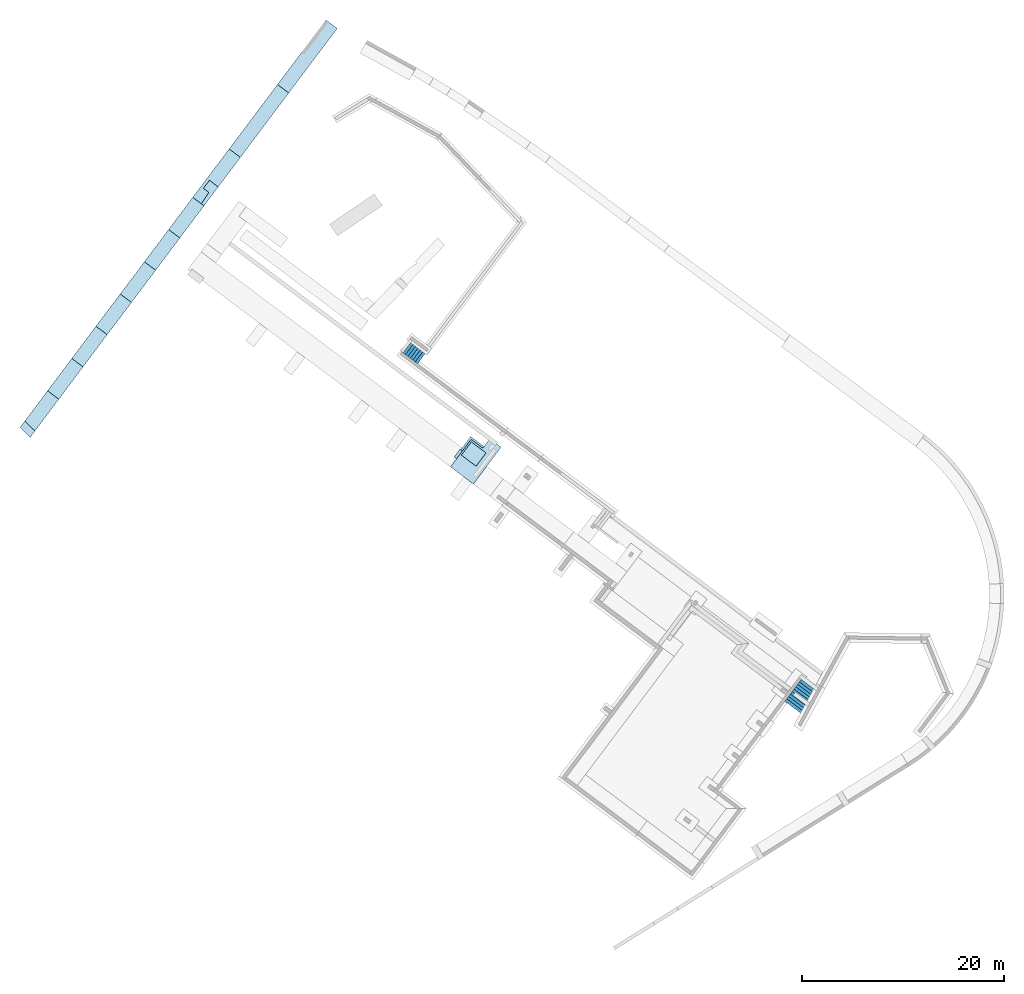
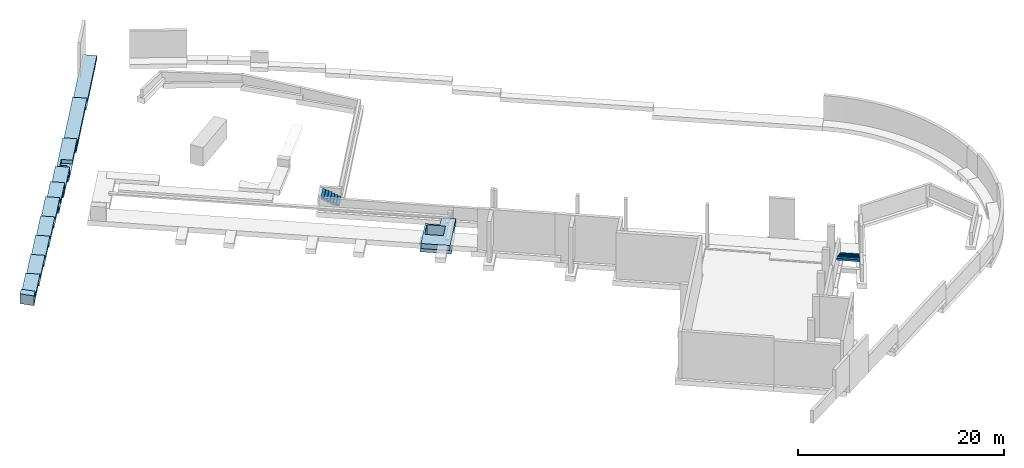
# One storey, part 7 of 9: 2 slabs, 2 stair flights, 2 elements without a shape of their own.
"""IFC2X3 building model written with IfcOpenShell, lengths in metres."""

from ifc_helpers import new_model, entity, si_unit, converted_unit, derived_unit, direction, frame, origin, place, context, subcontext, project, spatial, faceted_brep, material, type_object, element, aggregate, save


model = new_model("IFC2X3")

# Units and contexts
model_context = context("Model", 3, precision=1e-05, world=origin(), true_north=direction((6.123031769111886e-17, 1.0)))
body_context = subcontext(model_context, "Body", "Model", "MODEL_VIEW")
ifc_project = project(units=[si_unit("LENGTHUNIT", "METRE"), si_unit("AREAUNIT", "SQUARE_METRE"), si_unit("VOLUMEUNIT", "CUBIC_METRE"), converted_unit("PLANEANGLEUNIT", "DEGREE", entity("IfcRatioMeasure", 0.017453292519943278), si_unit("PLANEANGLEUNIT", "RADIAN"), dimensions=[0, 0, 0, 0, 0, 0, 0]), si_unit("MASSUNIT", "GRAM", prefix="KILO"), derived_unit("MASSDENSITYUNIT", [(si_unit("MASSUNIT", "GRAM", prefix="KILO"), 1), (si_unit("LENGTHUNIT", "METRE"), -3)]), derived_unit("IONCONCENTRATIONUNIT", [(si_unit("MASSUNIT", "GRAM", prefix="KILO"), 1), (si_unit("LENGTHUNIT", "METRE"), -3)]), derived_unit("MOMENTOFINERTIAUNIT", [(si_unit("LENGTHUNIT", "METRE"), 4)]), si_unit("TIMEUNIT", "SECOND"), si_unit("FREQUENCYUNIT", "HERTZ"), si_unit("THERMODYNAMICTEMPERATUREUNIT", "DEGREE_CELSIUS"), derived_unit("THERMALTRANSMITTANCEUNIT", [(si_unit("MASSUNIT", "GRAM", prefix="KILO"), 1), (si_unit("THERMODYNAMICTEMPERATUREUNIT", "KELVIN"), -1), (si_unit("TIMEUNIT", "SECOND"), -3)]), derived_unit("THERMALCONDUCTANCEUNIT", [(si_unit("MASSUNIT", "GRAM", prefix="KILO"), 1), (si_unit("THERMODYNAMICTEMPERATUREUNIT", "KELVIN"), -1), (si_unit("TIMEUNIT", "SECOND"), -3), (si_unit("LENGTHUNIT", "METRE"), 1)]), derived_unit("VOLUMETRICFLOWRATEUNIT", [(si_unit("LENGTHUNIT", "METRE"), 3), (si_unit("TIMEUNIT", "SECOND"), -1)]), derived_unit("MASSFLOWRATEUNIT", [(si_unit("MASSUNIT", "GRAM", prefix="KILO"), 1), (si_unit("TIMEUNIT", "SECOND"), -1)]), derived_unit("ROTATIONALFREQUENCYUNIT", [(si_unit("TIMEUNIT", "SECOND"), -1)]), si_unit("ELECTRICCURRENTUNIT", "AMPERE"), si_unit("ELECTRICVOLTAGEUNIT", "VOLT"), si_unit("POWERUNIT", "WATT"), si_unit("FORCEUNIT", "NEWTON", prefix="KILO"), si_unit("ILLUMINANCEUNIT", "LUX"), si_unit("LUMINOUSFLUXUNIT", "LUMEN"), si_unit("LUMINOUSINTENSITYUNIT", "CANDELA"), derived_unit("USERDEFINED", [(si_unit("MASSUNIT", "GRAM", prefix="KILO"), -1), (si_unit("LENGTHUNIT", "METRE"), -2), (si_unit("TIMEUNIT", "SECOND"), 3), (si_unit("LUMINOUSFLUXUNIT", "LUMEN"), 1)]), derived_unit("USERDEFINED", [(si_unit("MASSUNIT", "GRAM", prefix="KILO"), 1), (si_unit("TIMEUNIT", "SECOND"), -3), (si_unit("LENGTHUNIT", "METRE"), 3), (si_unit("ELECTRICCURRENTUNIT", "AMPERE"), -2)]), derived_unit("SOUNDPOWERUNIT", [(si_unit("MASSUNIT", "GRAM", prefix="KILO"), 1), (si_unit("TIMEUNIT", "SECOND"), -3), (si_unit("LENGTHUNIT", "METRE"), 2)]), derived_unit("SOUNDPRESSUREUNIT", [(si_unit("MASSUNIT", "GRAM", prefix="KILO"), 1), (si_unit("LENGTHUNIT", "METRE"), -1), (si_unit("TIMEUNIT", "SECOND"), -2)]), derived_unit("LINEARVELOCITYUNIT", [(si_unit("LENGTHUNIT", "METRE"), 1), (si_unit("TIMEUNIT", "SECOND"), -1)]), si_unit("PRESSUREUNIT", "PASCAL"), derived_unit("USERDEFINED", [(si_unit("MASSUNIT", "GRAM", prefix="KILO"), 1), (si_unit("LENGTHUNIT", "METRE"), -2), (si_unit("TIMEUNIT", "SECOND"), -2)]), derived_unit("LINEARFORCEUNIT", [(si_unit("MASSUNIT", "GRAM", prefix="KILO"), 1), (si_unit("TIMEUNIT", "SECOND"), -2)]), derived_unit("PLANARFORCEUNIT", [(si_unit("MASSUNIT", "GRAM", prefix="KILO"), 1), (si_unit("LENGTHUNIT", "METRE"), -1), (si_unit("TIMEUNIT", "SECOND"), -2)]), derived_unit("SPECIFICHEATCAPACITYUNIT", [(si_unit("THERMODYNAMICTEMPERATUREUNIT", "KELVIN"), -1), (si_unit("LENGTHUNIT", "METRE"), 2), (si_unit("TIMEUNIT", "SECOND"), -2)]), derived_unit("HEATINGVALUEUNIT", [(si_unit("LENGTHUNIT", "METRE"), 2), (si_unit("TIMEUNIT", "SECOND"), -2)]), derived_unit("VAPORPERMEABILITYUNIT", [(si_unit("LENGTHUNIT", "METRE"), -1), (si_unit("TIMEUNIT", "SECOND"), 1)]), derived_unit("DYNAMICVISCOSITYUNIT", [(si_unit("MASSUNIT", "GRAM", prefix="KILO"), 1), (si_unit("TIMEUNIT", "SECOND"), -1), (si_unit("LENGTHUNIT", "METRE"), -1)]), derived_unit("THERMALEXPANSIONCOEFFICIENTUNIT", [(si_unit("THERMODYNAMICTEMPERATUREUNIT", "KELVIN"), -1)]), derived_unit("MODULUSOFELASTICITYUNIT", [(si_unit("MASSUNIT", "GRAM", prefix="KILO"), 1), (si_unit("LENGTHUNIT", "METRE"), -1), (si_unit("TIMEUNIT", "SECOND"), -2)]), derived_unit("ISOTHERMALMOISTURECAPACITYUNIT", [(si_unit("LENGTHUNIT", "METRE"), 3), (si_unit("MASSUNIT", "GRAM", prefix="KILO"), -1)]), derived_unit("MOISTUREDIFFUSIVITYUNIT", [(si_unit("TIMEUNIT", "SECOND"), -1), (si_unit("LENGTHUNIT", "METRE"), 2)])], contexts=[model_context])

# Site, building, storey
site_placement = place(None, origin())
site = spatial("IfcSite", under=ifc_project, at=site_placement, Name="Default", CompositionType="ELEMENT")
building_placement = place(site_placement, frame((0.0, 0.0, 235.0), z_axis=(0.0, 0.0, 1.0), x_axis=(-0.7996477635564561, 0.6004693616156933, 0.0)))
building = spatial("IfcBuilding", under=site, at=building_placement, CompositionType="ELEMENT")
storey_placement = place(building_placement, frame((0.0, 0.0, -5.4499999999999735)))
storey = spatial("IfcBuildingStorey", under=building, at=storey_placement, Name="PS1- Gimnàs", CompositionType="ELEMENT", Elevation=-5.4499999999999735)

# Slabs
ifc_material_1 = material(Name="_Formigó Pobre- T1- STR")
slab_type_1 = type_object("IfcSlabType", Name="STR- S- Formigó- Fosat ascensor:STR- S- Formigó- Fosat ascensor", PredefinedType="BASESLAB", material=ifc_material_1)
slab_1_placement = place(storey_placement, frame((40.49514768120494, -40.68519175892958, -1.1500000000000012)))
element("IfcSlab", 1, at=slab_1_placement, inside=storey, type_object=slab_type_1, Name="STR- S- Formigó- Fosat ascensor:STR- S- Formigó- Fosat ascensor", ObjectType="STR- S- Formigó- Fosat ascensor:STR- S- Formigó- Fosat ascensor", PredefinedType="BASESLAB", context=body_context, shape_type="Brep", body=[
    faceted_brep([(0.0, 0.0, 1.0999999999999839), (1.4000000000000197, 0.0, 1.0999999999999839), (1.4000000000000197, 0.960000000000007, 1.0999999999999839), (0.0, 0.960000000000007, 1.0999999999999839), (0.0, 0.0, 1.0), (0.0, 0.960000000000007, 1.0), (1.4000000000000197, 0.960000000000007, 1.0), (1.4000000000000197, 0.0, 1.0)], [[[0, 1, 2, 3]], [[4, 5, 6, 7]], [[1, 0, 4, 7]], [[2, 1, 7, 6]], [[3, 2, 6, 5]], [[0, 3, 5, 4]]]),
    faceted_brep([(3.05, 0.9599999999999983, 0.09999999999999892), (3.05, 3.5735008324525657, 0.09999999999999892), (0.0, 3.5735008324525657, 0.09999999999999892), (0.0, 0.9600000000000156, 0.09999999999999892), (3.05, 0.9599999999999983, 0.0), (0.0, 0.9600000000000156, 0.0), (0.0, 3.5735008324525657, 0.0), (3.05, 3.5735008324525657, 0.0)], [[[0, 1, 2, 3]], [[4, 5, 6, 7]], [[1, 0, 4, 7]], [[3, 2, 6, 5]], [[0, 3, 5, 4]], [[2, 1, 7, 6]]]),
    faceted_brep([(3.05, 3.3599999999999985, 0.4999999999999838), (3.05, 3.5200000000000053, 1.0999999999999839), (3.05, 3.3599999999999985, 1.0999999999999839), (0.0, 3.360000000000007, 0.4999999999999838), (0.0, 3.360000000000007, 1.0999999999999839), (0.0, 3.5200000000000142, 1.0999999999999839)], [[[0, 1, 2]], [[3, 4, 5]], [[0, 2, 4, 3]], [[2, 1, 5, 4]], [[1, 0, 3, 5]]]),
    faceted_brep([(1.4000000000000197, 1.1599999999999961, 1.699999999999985), (2.8500000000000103, 1.1599999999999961, 1.699999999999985), (2.8500000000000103, 4.570000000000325, 1.699999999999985), (1.2000000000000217, 4.57000000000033, 1.699999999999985), (0.20000000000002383, 4.570000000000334, 1.699999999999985), (0.0, 4.570000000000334, 1.699999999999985), (0.0, 2.37000000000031, 1.699999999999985), (0.0, 0.0, 1.699999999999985), (0.5000000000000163, 0.0, 1.699999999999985), (0.900000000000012, 0.0, 1.699999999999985), (1.4000000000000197, 0.0, 1.699999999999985), (2.675000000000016, 2.9920018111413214, 1.699999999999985), (2.675000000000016, 1.352001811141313, 1.699999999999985), (0.8500000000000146, 1.352001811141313, 1.699999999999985), (0.8500000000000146, 2.9920018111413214, 1.699999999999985), (2.8500000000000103, 1.1599999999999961, 0.49999999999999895), (2.8500000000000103, 2.5835008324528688, 0.49999999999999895), (2.8500000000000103, 2.5835008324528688, 1.099999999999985), (2.8500000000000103, 3.5735008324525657, 1.0999999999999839), (2.8500000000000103, 4.570000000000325, 1.0999999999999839), (0.0, 0.0, 1.0999999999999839), (0.0, 4.570000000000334, 1.0999999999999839), (0.0, 3.5735008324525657, 1.0999999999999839), (0.0, 3.5735008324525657, 0.09999999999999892), (0.0, 0.9600000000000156, 0.09999999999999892), (0.0, 0.9600000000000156, 1.0999999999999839), (1.4000000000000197, 1.1599999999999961, 0.49999999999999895), (2.675000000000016, 2.9920018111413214, 0.49999999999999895), (2.675000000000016, 1.352001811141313, 0.49999999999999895), (0.8500000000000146, 1.352001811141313, 0.49999999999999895), (0.8500000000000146, 2.9920018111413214, 0.49999999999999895), (1.4000000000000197, 0.960000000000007, 0.49999999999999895), (3.05, 0.9599999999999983, 0.49999999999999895), (3.05, 2.5835008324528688, 0.49999999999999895), (3.05, 0.9599999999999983, 0.09999999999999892), (3.05, 3.5735008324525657, 0.09999999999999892), (3.05, 3.5735008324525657, 0.49999999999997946), (1.4000000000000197, 0.0, 1.0999999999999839), (1.4000000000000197, 0.960000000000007, 1.0999999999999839), (3.129999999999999, 2.5835008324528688, 1.0999999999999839), (3.129999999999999, 3.5735008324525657, 1.0999999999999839), (0.20000000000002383, 4.570000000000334, 1.0999999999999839), (1.2000000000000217, 4.57000000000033, 1.0999999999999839)], [[[0, 1, 2, 3, 4, 5, 6, 7, 8, 9, 10], [11, 12, 13, 14]], [[2, 1, 15, 16, 17, 18, 19]], [[20, 7, 6, 5, 21, 22, 23, 24, 25]], [[1, 0, 26, 15]], [[12, 11, 27, 28]], [[13, 12, 28, 29]], [[14, 13, 29, 30]], [[11, 14, 30, 27]], [[31, 32, 33, 16, 15, 26]], [[34, 24, 23, 35]], [[34, 35, 36, 33, 32]], [[37, 20, 25, 38]], [[10, 9, 8, 7, 20, 37]], [[33, 39, 17, 16]], [[18, 17, 39, 40]], [[35, 23, 22, 18, 40, 36]], [[21, 41, 42, 19, 18, 22]], [[5, 4, 3, 2, 19, 42, 41, 21]], [[31, 38, 25, 24, 34, 32]], [[10, 37, 38, 31, 26, 0]], [[39, 33, 36, 40]], [[28, 27, 30, 29]]]),
])
ifc_material_2 = material(Name="_Formigó- T1- STR")
slab_type_2 = type_object("IfcSlabType", Name="STR- S- Formigó- Mp2:STR- S- Formigó- Mp4", PredefinedType="BASESLAB", material=ifc_material_2)
slab_2_placement = place(storey_placement, frame((78.4449378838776, -64.14728884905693, -0.10000000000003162)))
element("IfcSlab", 2, at=slab_2_placement, inside=storey, type_object=slab_type_2, Name="STR- S- Formigó- Mp2:STR- S- Formigó- Mp4", ObjectType="STR- S- Formigó- Mp2:STR- S- Formigó- Mp4", PredefinedType="BASESLAB", context=body_context, shape_type="Brep", body=[
    faceted_brep([(0.0, 42.0, 6.0), (1.400000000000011, 42.0, 6.0), (1.4000000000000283, 46.0, 6.0), (0.0, 46.0, 6.0), (0.0, 42.0, 5.550000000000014), (1.4000000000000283, 42.0, 5.549999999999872), (0.0, 46.0, 6.550000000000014), (1.4000000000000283, 46.0, 6.550000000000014), (1.4000000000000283, 49.74601683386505, 6.550000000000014), (0.0, 49.94264694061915, 6.550000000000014), (0.0, 50.75049889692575, 6.100000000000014), (1.4000000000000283, 50.55386879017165, 6.100000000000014), (1.4000000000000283, 46.59999999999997, 6.100000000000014), (0.0, 46.59999999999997, 6.100000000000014), (0.0, 50.75049889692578, 7.270000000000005), (1.4000000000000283, 50.55386879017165, 7.270000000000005), (0.0, 49.94264694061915, 7.270000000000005), (0.0, 46.59999999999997, 5.550000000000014), (1.4000000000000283, 49.74601683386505, 7.270000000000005), (1.4000000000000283, 46.59999999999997, 5.550000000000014)], [[[0, 1, 2, 3]], [[1, 0, 4, 5]], [[6, 7, 8, 9]], [[10, 11, 12, 13]], [[11, 10, 14, 15]], [[4, 0, 3, 6, 9, 16, 14, 10, 13, 17]], [[7, 6, 3, 2]], [[12, 11, 15, 18, 8, 7, 2, 1, 5, 19]], [[19, 5, 4, 17]], [[12, 19, 17, 13]], [[15, 14, 16, 18]], [[18, 16, 9, 8]]]),
    faceted_brep([(1.400000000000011, 42.59999999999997, 5.550000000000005), (0.0, 42.59999999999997, 5.550000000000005), (0.0, 42.0, 5.550000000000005), (1.400000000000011, 42.0, 5.550000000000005), (1.400000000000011, 42.59999999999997, 5.499999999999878), (1.400000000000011, 42.0, 5.499999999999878), (0.0, 42.0, 5.499999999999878), (0.0, 42.59999999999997, 5.499999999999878)], [[[0, 1, 2, 3]], [[4, 5, 6, 7]], [[1, 0, 4, 7]], [[2, 1, 7, 6]], [[3, 2, 6, 5]], [[0, 3, 5, 4]]]),
    faceted_brep([(1.400000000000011, 38.59999999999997, 5.049999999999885), (0.0, 38.59999999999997, 5.049999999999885), (0.0, 38.0, 5.049999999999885), (1.400000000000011, 38.0, 5.049999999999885), (1.400000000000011, 38.59999999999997, 5.0), (1.400000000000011, 38.0, 5.0), (0.0, 38.0, 5.0), (0.0, 38.59999999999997, 5.0)], [[[0, 1, 2, 3]], [[4, 5, 6, 7]], [[1, 0, 4, 7]], [[2, 1, 7, 6]], [[3, 2, 6, 5]], [[0, 3, 5, 4]]]),
    faceted_brep([(1.400000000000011, 42.59999999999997, 5.4999999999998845), (0.0, 42.59999999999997, 5.4999999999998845), (0.0, 38.0, 5.4999999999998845), (1.400000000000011, 38.0, 5.4999999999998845), (1.400000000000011, 42.59999999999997, 5.049999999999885), (1.400000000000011, 38.0, 5.049999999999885), (0.0, 38.0, 5.049999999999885), (0.0, 42.59999999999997, 5.049999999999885)], [[[0, 1, 2, 3]], [[4, 5, 6, 7]], [[1, 0, 4, 7]], [[2, 1, 7, 6]], [[3, 2, 6, 5]], [[0, 3, 5, 4]]]),
    faceted_brep([(1.400000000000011, 34.59999999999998, 4.549999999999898), (0.0, 34.59999999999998, 4.549999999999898), (0.0, 34.0, 4.549999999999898), (1.400000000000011, 34.0, 4.549999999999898), (1.400000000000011, 34.59999999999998, 4.499999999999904), (1.400000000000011, 34.0, 4.499999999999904), (0.0, 34.0, 4.499999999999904), (0.0, 34.59999999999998, 4.499999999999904)], [[[0, 1, 2, 3]], [[4, 5, 6, 7]], [[1, 0, 4, 7]], [[2, 1, 7, 6]], [[3, 2, 6, 5]], [[0, 3, 5, 4]]]),
    faceted_brep([(1.400000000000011, 38.59999999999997, 5.0), (0.0, 38.59999999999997, 5.0), (0.0, 34.0, 5.0), (1.400000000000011, 34.0, 5.0), (1.400000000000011, 38.59999999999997, 4.549999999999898), (1.400000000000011, 34.0, 4.549999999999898), (0.0, 34.0, 4.549999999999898), (0.0, 38.59999999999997, 4.549999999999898)], [[[0, 1, 2, 3]], [[4, 5, 6, 7]], [[1, 0, 4, 7]], [[2, 1, 7, 6]], [[3, 2, 6, 5]], [[0, 3, 5, 4]]]),
    faceted_brep([(1.400000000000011, 30.59999999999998, 4.0499999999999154), (0.0, 30.59999999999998, 4.0499999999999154), (0.0, 30.0, 4.0499999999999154), (1.400000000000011, 30.0, 4.0499999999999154), (1.400000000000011, 30.59999999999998, 3.499999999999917), (1.400000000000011, 30.0, 3.499999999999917), (0.0, 30.0, 3.499999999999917), (0.0, 30.59999999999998, 3.499999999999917)], [[[0, 1, 2, 3]], [[4, 5, 6, 7]], [[1, 0, 4, 7]], [[2, 1, 7, 6]], [[3, 2, 6, 5]], [[0, 3, 5, 4]]]),
    faceted_brep([(1.400000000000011, 34.59999999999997, 4.49999999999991), (0.0, 34.59999999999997, 4.49999999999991), (0.0, 30.0, 4.49999999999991), (1.400000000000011, 30.0, 4.49999999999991), (1.400000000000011, 34.59999999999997, 4.04999999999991), (1.400000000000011, 30.0, 4.04999999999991), (0.0, 30.0, 4.04999999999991), (0.0, 34.59999999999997, 4.04999999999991)], [[[0, 1, 2, 3]], [[4, 5, 6, 7]], [[1, 0, 4, 7]], [[2, 1, 7, 6]], [[3, 2, 6, 5]], [[0, 3, 5, 4]]]),
    faceted_brep([(1.400000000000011, 26.599999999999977, 3.049999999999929), (0.0, 26.599999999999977, 3.049999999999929), (0.0, 26.0, 3.049999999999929), (1.400000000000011, 26.0, 3.049999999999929), (1.400000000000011, 26.599999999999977, 2.550000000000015), (1.400000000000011, 26.0, 2.550000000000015), (0.0, 26.0, 2.550000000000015), (0.0, 26.599999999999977, 2.550000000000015)], [[[0, 1, 2, 3]], [[4, 5, 6, 7]], [[1, 0, 4, 7]], [[2, 1, 7, 6]], [[3, 2, 6, 5]], [[0, 3, 5, 4]]]),
    faceted_brep([(0.0, 0.0, 0.5000000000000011), (1.3999999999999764, 0.0, 0.5000000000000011), (1.3999999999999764, 8.0, 0.5000000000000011), (0.0, 8.0, 0.5000000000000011), (1.3999999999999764, 8.599999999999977, 0.0), (1.3999999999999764, 0.0, 0.0), (0.0, 0.0, 0.0), (0.0, 8.599999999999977, 0.0), (0.0, 8.599999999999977, 0.15000000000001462), (0.0, 8.599999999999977, 0.25000000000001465), (0.0, 8.599999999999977, 0.49999999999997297), (1.3999999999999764, 8.599999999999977, 0.5000000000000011), (1.3999999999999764, 8.599999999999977, 0.25000000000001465), (1.3999999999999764, 8.599999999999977, 0.15000000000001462), (0.0, 8.0, 1.0), (0.0, 16.599999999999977, 1.0), (0.0, 16.599999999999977, 0.49999999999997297), (1.3999999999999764, 16.599999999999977, 0.49999999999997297), (1.3999999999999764, 16.599999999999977, 1.0), (1.3999999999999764, 8.0, 1.0)], [[[0, 1, 2, 3]], [[4, 5, 6, 7]], [[4, 7, 8, 9, 10, 11, 12, 13]], [[7, 6, 0, 3, 14, 15, 16, 10, 9, 8]], [[1, 0, 6, 5]], [[5, 4, 13, 12, 11, 17, 18, 19, 2, 1]], [[18, 15, 14, 19]], [[16, 17, 11, 10]], [[15, 18, 17, 16]], [[19, 14, 3, 2]]]),
    faceted_brep([(0.0, 16.0, 1.749999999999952), (1.3999999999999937, 16.0, 1.749999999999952), (1.400000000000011, 22.0, 1.749999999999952), (0.33214092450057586, 22.0, 1.749999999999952), (0.4205999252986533, 20.65676671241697, 1.749999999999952), (1.0999836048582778, 20.65676671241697, 1.749999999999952), (1.0999835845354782, 19.656766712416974, 1.749999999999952), (0.0, 19.656766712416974, 1.749999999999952), (1.3999999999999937, 22.599999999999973, 1.2499999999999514), (1.3999999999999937, 16.0, 1.2499999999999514), (0.0, 16.0, 1.2499999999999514), (0.0, 22.599999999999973, 1.2499999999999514), (0.0, 22.0, 2.5500000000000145), (1.400000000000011, 22.0, 2.5500000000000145), (1.400000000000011, 22.59999999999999, 2.5500000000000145), (1.400000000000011, 26.599999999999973, 2.5500000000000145), (0.0, 26.599999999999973, 2.5500000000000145), (0.0, 22.59999999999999, 2.5500000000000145), (0.0, 22.0, 2.0999999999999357), (0.0, 22.0, 1.7500000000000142), (1.400000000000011, 22.0, 2.0999999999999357), (0.0, 26.599999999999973, 2.250000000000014), (0.0, 24.03627106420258, 2.250000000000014), (0.0, 24.03627106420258, 2.1000000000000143), (0.0, 22.599999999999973, 2.1000000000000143), (0.0, 22.599999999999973, 1.7500000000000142), (0.0, 22.599999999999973, 1.3000000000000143), (0.2926277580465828, 22.599999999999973, 1.3000000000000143), (0.2926277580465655, 22.599999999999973, 1.7500000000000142), (1.400000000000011, 22.599999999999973, 2.1000000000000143), (1.3999999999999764, 26.599999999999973, 2.1000000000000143), (1.0999836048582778, 20.65676671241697, 1.3000000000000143), (0.420599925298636, 20.65676671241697, 1.3000000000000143), (0.0, 19.656766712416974, 1.3000000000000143), (1.0999835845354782, 19.656766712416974, 1.3000000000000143), (0.029206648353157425, 26.599999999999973, 2.250000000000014), (0.19718654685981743, 24.04925683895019, 2.250000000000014), (0.1971865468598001, 24.04925683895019, 2.1000000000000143), (0.029206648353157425, 26.599999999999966, 2.1000000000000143)], [[[0, 1, 2, 3, 4, 5, 6, 7]], [[8, 9, 10, 11]], [[1, 0, 10, 9]], [[12, 13, 14, 15, 16, 17]], [[13, 12, 18, 19, 3, 2, 20]], [[17, 16, 21, 22, 23, 24, 25, 19, 18, 12]], [[8, 11, 26, 27, 28, 25, 24, 29]], [[9, 8, 29, 30, 15, 14, 13, 20, 2, 1]], [[28, 3, 19, 25]], [[31, 32, 27, 26, 33, 34]], [[6, 34, 33, 7]], [[31, 34, 6, 5]], [[32, 31, 5, 4]], [[35, 36, 22, 21]], [[22, 36, 37, 23]], [[36, 35, 38, 37]], [[29, 24, 23, 37, 38, 30]], [[16, 15, 30, 38, 35, 21]], [[11, 10, 0, 7, 33, 26]], [[32, 4, 3, 28, 27]]]),
    faceted_brep([(1.400000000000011, 30.599999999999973, 3.499999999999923), (0.0, 30.599999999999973, 3.499999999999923), (0.0, 26.0, 3.499999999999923), (1.400000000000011, 26.0, 3.499999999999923), (1.400000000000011, 30.599999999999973, 3.049999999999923), (1.400000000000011, 26.0, 3.049999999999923), (0.0, 26.0, 3.049999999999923), (0.0, 30.599999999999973, 3.049999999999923)], [[[0, 1, 2, 3]], [[4, 5, 6, 7]], [[1, 0, 4, 7]], [[2, 1, 7, 6]], [[3, 2, 6, 5]], [[0, 3, 5, 4]]]),
])

# Stair, stair flight
stair_1_placement = place(storey_placement, origin())
stair_1 = element("IfcStair", 3, at=stair_1_placement, inside=storey, Name="Escalera moldeada in situ:Escalera", ObjectType="Escalera moldeada in situ:E-X1- Exterior", ShapeType="STRAIGHT_RUN_STAIR")
stair_flight_type_1 = type_object("IfcStairFlightType", Name="Tramo monolítico:E00- STR- Ext", PredefinedType="STRAIGHT")
stair_flight_1_placement = place(stair_1_placement, frame((52.095147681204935, -43.84019175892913, 0.0)))
stair_flight_1 = element("IfcStairFlight", 4, at=stair_flight_1_placement, type_object=stair_flight_type_1, material=ifc_material_2, Name="Escalera moldeada in situ:Escalera:41333 Run 1", ObjectType="Tramo monolítico:E00- STR- Ext", NumberOfRiser=7, NumberOfTreads=6, RiserHeight=0.4686914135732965, TreadLength=0.9842519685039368, context=body_context, shape_type="Brep", body=[
    faceted_brep([(0.30000000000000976, 1.4999999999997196, 0.0828571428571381), (0.0, 1.4999999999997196, 0.0828571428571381), (0.0, 0.0, 0.0828571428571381), (0.30000000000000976, 0.0, 0.0828571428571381), (0.30000000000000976, 1.4999999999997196, -0.06000000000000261), (0.0, 1.4999999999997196, -0.06000000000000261), (0.0, 0.0, -0.06000000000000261), (0.30000000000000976, 0.0, -0.06000000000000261), (0.6000000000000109, 1.4999999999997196, 0.2257142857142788), (0.30000000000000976, 1.4999999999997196, 0.2257142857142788), (0.30000000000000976, 0.0, 0.2257142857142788), (0.6000000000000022, 0.0, 0.2257142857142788), (0.6000000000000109, 1.4999999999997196, 0.004196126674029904), (0.46518813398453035, 1.4999999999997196, -0.06000000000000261), (0.465188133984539, 0.0, -0.06000000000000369), (0.6000000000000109, 0.0, 0.004196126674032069), (0.9000000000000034, 1.4999999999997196, 0.1470532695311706), (1.200000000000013, 1.4999999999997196, 0.28991041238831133), (1.5000000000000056, 1.4999999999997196, 0.432767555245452), (1.8000000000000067, 1.4999999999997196, 0.5756246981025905), (1.8000000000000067, 0.0, 0.5756246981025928), (1.5000000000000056, 0.0, 0.432767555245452), (1.200000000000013, 0.0, 0.28991041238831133), (0.9000000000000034, 0.0, 0.1470532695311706), (0.9000000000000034, 1.4999999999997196, 0.3685714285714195), (0.6000000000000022, 1.4999999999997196, 0.3685714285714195), (0.6000000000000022, 0.0, 0.3685714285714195), (0.9000000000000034, 0.0, 0.3685714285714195), (1.2000000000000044, 1.4999999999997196, 0.5114285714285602), (0.9000000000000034, 1.4999999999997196, 0.5114285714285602), (0.9000000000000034, 0.0, 0.5114285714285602), (1.2000000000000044, 0.0, 0.5114285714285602), (1.5000000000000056, 1.4999999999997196, 0.6542857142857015), (1.2000000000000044, 1.4999999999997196, 0.6542857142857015), (1.2000000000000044, 0.0, 0.6542857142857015), (1.5000000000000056, 0.0, 0.6542857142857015), (1.8000000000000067, 1.4999999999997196, 0.7971428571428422), (1.5000000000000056, 1.4999999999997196, 0.7971428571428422), (1.5000000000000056, 0.0, 0.7971428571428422), (1.8000000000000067, 0.0, 0.7971428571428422)], [[[0, 1, 2, 3]], [[1, 0, 4, 5]], [[2, 1, 5, 6]], [[3, 2, 6, 7]], [[8, 9, 10, 11]], [[4, 0, 9, 8, 12, 13]], [[0, 3, 10, 9]], [[3, 7, 14, 15, 11, 10]], [[5, 4, 13, 14, 7, 6]], [[14, 13, 12, 16, 17, 18, 19, 20, 21, 22, 23, 15]], [[24, 25, 26, 27]], [[25, 24, 16, 12, 8]], [[8, 11, 26, 25]], [[27, 26, 11, 15, 23]], [[28, 29, 30, 31]], [[29, 28, 17, 16, 24]], [[24, 27, 30, 29]], [[31, 30, 27, 23, 22]], [[32, 33, 34, 35]], [[33, 32, 18, 17, 28]], [[28, 31, 34, 33]], [[35, 34, 31, 22, 21]], [[36, 37, 38, 39]], [[37, 36, 19, 18, 32]], [[32, 35, 38, 37]], [[39, 38, 35, 21, 20]], [[36, 39, 20, 19]]]),
])
aggregate(stair_1, [stair_flight_1])

stair_2_placement = place(storey_placement, origin())
stair_2 = element("IfcStair", 5, at=stair_2_placement, inside=storey, Name="Escalera moldeada in situ:Escalera", ObjectType="Escalera moldeada in situ:E-X1- Exterior", ShapeType="STRAIGHT_RUN_STAIR")
stair_flight_type_2 = type_object("IfcStairFlightType", Name="Tramo monolítico:E00- STR- Ext", PredefinedType="NOTDEFINED")
stair_flight_2_placement = place(stair_2_placement, frame((0.5517266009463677, -40.140191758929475, 0.0)))
stair_flight_2 = element("IfcStairFlight", 6, at=stair_flight_2_placement, type_object=stair_flight_type_2, material=ifc_material_2, Name="Escalera moldeada in situ:Escalera:41677 Run 1", ObjectType="Tramo monolítico:E00- STR- Ext", NumberOfRiser=9, NumberOfTreads=9, RiserHeight=0.4775444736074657, TreadLength=0.9895247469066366, context=body_context, shape_type="Brep", body=[
    faceted_brep([(0.3507718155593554, 0.30000000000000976, 0.11555555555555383), (0.39461829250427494, 0.0, 0.11555555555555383), (2.2934210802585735, 0.0, 0.11555555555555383), (2.293421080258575, 0.3000000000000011, 0.11555555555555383), (0.3507718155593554, 0.30000000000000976, -0.030000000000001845), (0.39461829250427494, 0.0, -0.030000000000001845), (2.2934210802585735, 0.0, -0.030000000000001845), (2.293421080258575, 0.3000000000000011, -0.030000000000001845), (0.306925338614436, 0.6000000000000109, 0.2611111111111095), (0.35077181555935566, 0.30000000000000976, 0.2611111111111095), (2.293421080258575, 0.3000000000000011, 0.2611111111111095), (2.2934210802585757, 0.6000000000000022, 0.2611111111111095), (0.3069253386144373, 0.6000000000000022, 0.03881359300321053), (0.32765442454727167, 0.45817045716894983, -0.030000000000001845), (2.2934210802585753, 0.4581704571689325, -0.03000000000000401), (2.2934210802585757, 0.6000000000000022, 0.03881359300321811), (0.2630788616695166, 0.900000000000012, 0.4066666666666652), (0.30692533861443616, 0.6000000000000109, 0.4066666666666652), (2.2934210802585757, 0.6000000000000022, 0.4066666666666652), (2.293421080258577, 0.9000000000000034, 0.4066666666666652), (0.2630788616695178, 0.9000000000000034, 0.1843691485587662), (2.293421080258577, 0.9000000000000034, 0.1843691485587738), (0.21923238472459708, 1.200000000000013, 0.5522222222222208), (0.2630788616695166, 0.900000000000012, 0.5522222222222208), (2.293421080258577, 0.9000000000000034, 0.5522222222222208), (2.293421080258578, 1.2000000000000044, 0.5522222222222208), (0.21923238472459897, 1.2000000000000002, 0.32992470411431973), (2.293421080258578, 1.2000000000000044, 0.32992470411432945), (0.1753859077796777, 1.5000000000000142, 0.6977777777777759), (0.21923238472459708, 1.200000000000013, 0.6977777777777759), (2.293421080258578, 1.2000000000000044, 0.6977777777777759), (2.2934210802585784, 1.5000000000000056, 0.6977777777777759), (0.1753859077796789, 1.5000000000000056, 0.47548025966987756), (2.293421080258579, 1.5000000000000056, 0.4754802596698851), (0.1315394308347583, 1.8000000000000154, 0.8433333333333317), (0.17538590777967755, 1.5000000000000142, 0.8433333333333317), (2.293421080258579, 1.5000000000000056, 0.8433333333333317), (2.293421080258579, 1.8000000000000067, 0.8433333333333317), (0.13153943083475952, 1.8000000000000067, 0.6210358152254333), (2.29342108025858, 1.8000000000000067, 0.6210358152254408), (0.08769295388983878, 2.1000000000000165, 0.9888888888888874), (0.1315394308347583, 1.8000000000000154, 0.9888888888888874), (2.29342108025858, 1.8000000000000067, 0.9888888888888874), (2.293421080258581, 2.1000000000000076, 0.9888888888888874), (0.08769295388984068, 2.100000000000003, 0.7665913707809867), (2.293421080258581, 2.1000000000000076, 0.7665913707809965), (0.04384647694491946, 2.4000000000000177, 1.134444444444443), (0.08769295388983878, 2.1000000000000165, 1.134444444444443), (2.293421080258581, 2.1000000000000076, 1.134444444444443), (2.2934210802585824, 2.400000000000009, 1.134444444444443), (0.04384647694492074, 2.400000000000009, 0.9121469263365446), (2.2934210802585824, 2.400000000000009, 0.9121469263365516), (0.0, 2.700000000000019, 1.0577024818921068), (2.2934210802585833, 2.7000000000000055, 1.0577024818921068), (0.0, 2.700000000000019, 1.2799999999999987), (0.043846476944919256, 2.4000000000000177, 1.2799999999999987), (2.2934210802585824, 2.400000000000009, 1.2799999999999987), (2.2934210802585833, 2.70000000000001, 1.2799999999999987)], [[[0, 1, 2, 3]], [[1, 0, 4, 5]], [[2, 1, 5, 6]], [[3, 2, 6, 7]], [[8, 9, 10, 11]], [[4, 0, 9, 8, 12, 13]], [[0, 3, 10, 9]], [[3, 7, 14, 15, 11, 10]], [[16, 17, 18, 19]], [[17, 16, 20, 12, 8]], [[8, 11, 18, 17]], [[19, 18, 11, 15, 21]], [[22, 23, 24, 25]], [[23, 22, 26, 20, 16]], [[16, 19, 24, 23]], [[25, 24, 19, 21, 27]], [[28, 29, 30, 31]], [[29, 28, 32, 26, 22]], [[22, 25, 30, 29]], [[31, 30, 25, 27, 33]], [[34, 35, 36, 37]], [[35, 34, 38, 32, 28]], [[28, 31, 36, 35]], [[37, 36, 31, 33, 39]], [[40, 41, 42, 43]], [[41, 40, 44, 38, 34]], [[34, 37, 42, 41]], [[43, 42, 37, 39, 45]], [[46, 47, 48, 49]], [[47, 46, 50, 44, 40]], [[40, 43, 48, 47]], [[49, 48, 43, 45, 51]], [[5, 4, 13, 14, 7, 6]], [[14, 13, 12, 20, 26, 32, 38, 44, 50, 52, 53, 51, 45, 39, 33, 27, 21, 15]], [[54, 55, 56, 57]], [[55, 54, 52, 50, 46]], [[46, 49, 56, 55]], [[57, 56, 49, 51, 53]], [[54, 57, 53, 52]]]),
])
aggregate(stair_2, [stair_flight_2])

save(model, "model.ifc")
